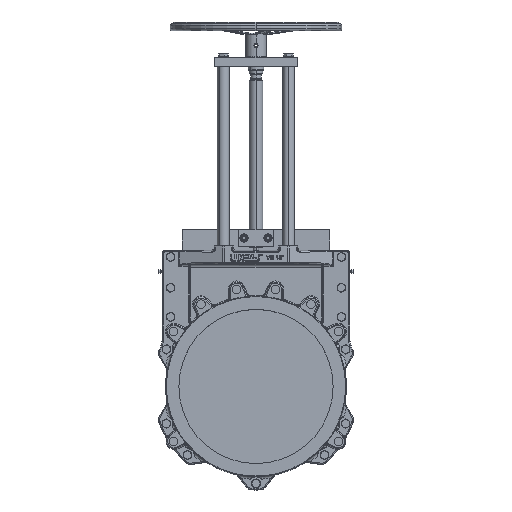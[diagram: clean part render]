
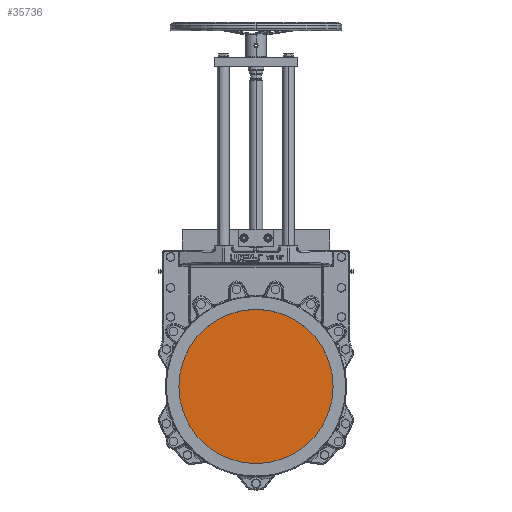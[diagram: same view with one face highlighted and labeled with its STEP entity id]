
A CAD part, top view. The second image highlights one B-rep face of the part: STEP entity #35736.
In plain terms, the highlighted planar face has unit normal (0, 0, 1).
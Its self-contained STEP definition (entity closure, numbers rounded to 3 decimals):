
#9872 = DIRECTION ( 'NONE',  ( -1., 0., 0. ) ) ;
#10001 = AXIS2_PLACEMENT_3D ( 'NONE', #13842, #95449, #25605 ) ;
#10467 = FACE_OUTER_BOUND ( 'NONE', #138954, .T. ) ;
#10649 = VERTEX_POINT ( 'NONE', #73403 ) ;
#13842 = CARTESIAN_POINT ( 'NONE',  ( 0., 0., -0.25 ) ) ;
#25605 = DIRECTION ( 'NONE',  ( 0., 1., 0. ) ) ;
#35736 = ADVANCED_FACE ( 'NONE', ( #10467 ), #102721, .F. ) ;
#39746 = CARTESIAN_POINT ( 'NONE',  ( 0., 0., -0.25 ) ) ;
#42404 = ORIENTED_EDGE ( 'NONE', *, *, #118118, .F. ) ;
#51583 = DIRECTION ( 'NONE',  ( 0., 1., 0. ) ) ;
#55573 = AXIS2_PLACEMENT_3D ( 'NONE', #39746, #121231, #51583 ) ;
#57081 = ORIENTED_EDGE ( 'NONE', *, *, #137481, .F. ) ;
#66819 = AXIS2_PLACEMENT_3D ( 'NONE', #149495, #79816, #9872 ) ;
#73403 = CARTESIAN_POINT ( 'NONE',  ( -225., 0., -0.25 ) ) ;
#79816 = DIRECTION ( 'NONE',  ( 0., 0., -1. ) ) ;
#89148 = VERTEX_POINT ( 'NONE', #111706 ) ;
#95449 = DIRECTION ( 'NONE',  ( 0., 0., -1. ) ) ;
#102721 = PLANE ( 'NONE',  #66819 ) ;
#106974 = CIRCLE ( 'NONE', #10001, 225. ) ;
#111706 = CARTESIAN_POINT ( 'NONE',  ( 225., 0., -0.25 ) ) ;
#118118 = EDGE_CURVE ( 'NONE', #10649, #89148, #106974, .T. ) ;
#121231 = DIRECTION ( 'NONE',  ( 0., 0., -1. ) ) ;
#137481 = EDGE_CURVE ( 'NONE', #89148, #10649, #142980, .T. ) ;
#138954 = EDGE_LOOP ( 'NONE', ( #57081, #42404 ) ) ;
#142980 = CIRCLE ( 'NONE', #55573, 225. ) ;
#149495 = CARTESIAN_POINT ( 'NONE',  ( 0., 120., -0.25 ) ) ;
